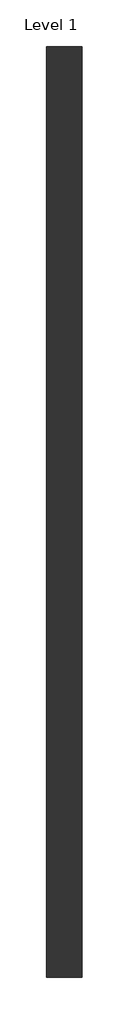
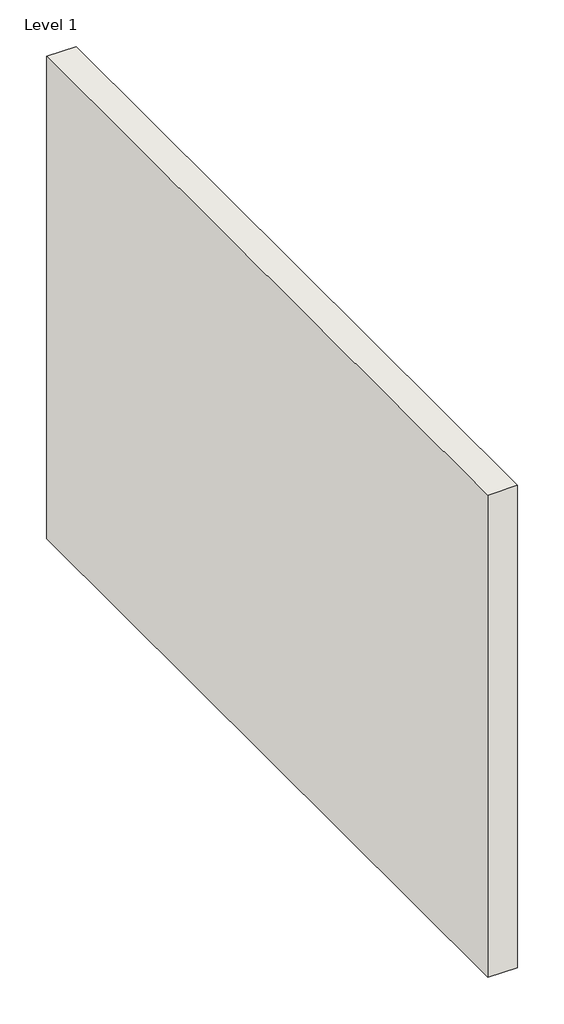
# One storey: 1 wall.
"""IFC4 building model written with IfcOpenShell, lengths in millimetres."""

from ifc_helpers import new_model, si_unit, origin, origin_with_axes, place, context, project, spatial, polyline, outline, extrude, element, save

model = new_model("IFC4")

# Units and contexts
model_context = context("Model", 3, world=origin())
ifc_project = project(units=[si_unit("LENGTHUNIT", "METRE", prefix="MILLI")], contexts=[model_context])

# Site, building, storey
site = spatial("IfcSite", under=ifc_project)
building = spatial("IfcBuilding", under=site)
storey = spatial("IfcBuildingStorey", under=building, Name="Level 1", Elevation=0.0)

# Wall
placement = place(None, origin())
element("IfcWall", 1, ObjectType="Tuğla Kaplamalı", at=placement, inside=storey, context=model_context, shape_type="SweptSolid", body=[
    extrude(outline(polyline([(-4431.1440843, 11461.8087064), (-4431.1440843, 2461.8087064), (-4778.6440843, 2461.8087064), (-4778.6440843, 11461.8087064), (-4431.1440843, 11461.8087064)])), origin_with_axes(), (0.0, 0.0, 1.0), 6000.0),
])

save(model, "model.ifc")
